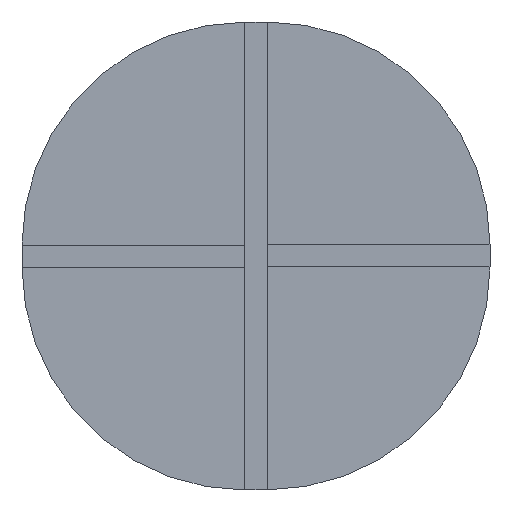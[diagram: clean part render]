
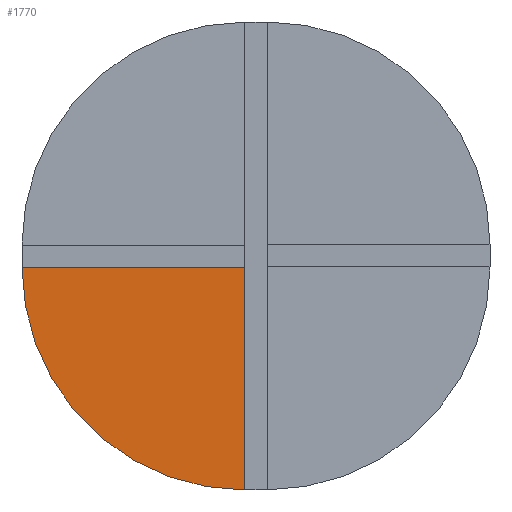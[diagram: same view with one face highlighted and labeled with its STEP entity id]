
A CAD part, front view. The second image highlights one B-rep face of the part: STEP entity #1770.
In plain terms, the highlighted planar face has unit normal (0, -1, 0) as drawn and (0, 0, 1) by its records, which use the part's own axes.
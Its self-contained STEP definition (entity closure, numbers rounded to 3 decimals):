
#1658=DIRECTION('',(1.,0.,0.));
#1659=VECTOR('',#1658,4.609);
#1660=CARTESIAN_POINT('',(0.,0.,3.));
#1661=LINE('',#1660,#1659);
#1678=DIRECTION('',(0.,1.,0.));
#1679=VECTOR('',#1678,4.609);
#1680=CARTESIAN_POINT('',(0.,0.,3.));
#1681=LINE('',#1680,#1679);
#1687=CARTESIAN_POINT('',(0.,0.,3.));
#1688=DIRECTION('',(0.,0.,1.));
#1689=DIRECTION('',(1.,0.,0.));
#1690=AXIS2_PLACEMENT_3D('',#1687,#1688,#1689);
#1693=CARTESIAN_POINT('',(0.,0.,3.));
#1695=VERTEX_POINT('',#1693);
#1696=CARTESIAN_POINT('',(4.609,0.,3.));
#1697=VERTEX_POINT('',#1696);
#1700=CARTESIAN_POINT('',(0.,4.609,3.));
#1701=VERTEX_POINT('',#1700);
#1760=CARTESIAN_POINT('',(0.,0.,3.));
#1761=DIRECTION('',(0.,0.,-1.));
#1762=DIRECTION('',(1.,0.,0.));
#1763=AXIS2_PLACEMENT_3D('',#1760,#1761,#1762);
#1764=PLANE('',#1763);
#1765=ORIENTED_EDGE('',*,*,#1711,.F.);
#1766=ORIENTED_EDGE('',*,*,#1730,.T.);
#1767=ORIENTED_EDGE('',*,*,#1753,.F.);
#1768=EDGE_LOOP('',(#1765,#1766,#1767));
#1769=FACE_OUTER_BOUND('',#1768,.F.);
#1691=CIRCLE('',#1690,4.609);
#1711=EDGE_CURVE('',#1695,#1697,#1661,.T.);
#1730=EDGE_CURVE('',#1695,#1701,#1681,.T.);
#1753=EDGE_CURVE('',#1697,#1701,#1691,.T.);
#1770=ADVANCED_FACE('',(#1769),#1764,.F.);
